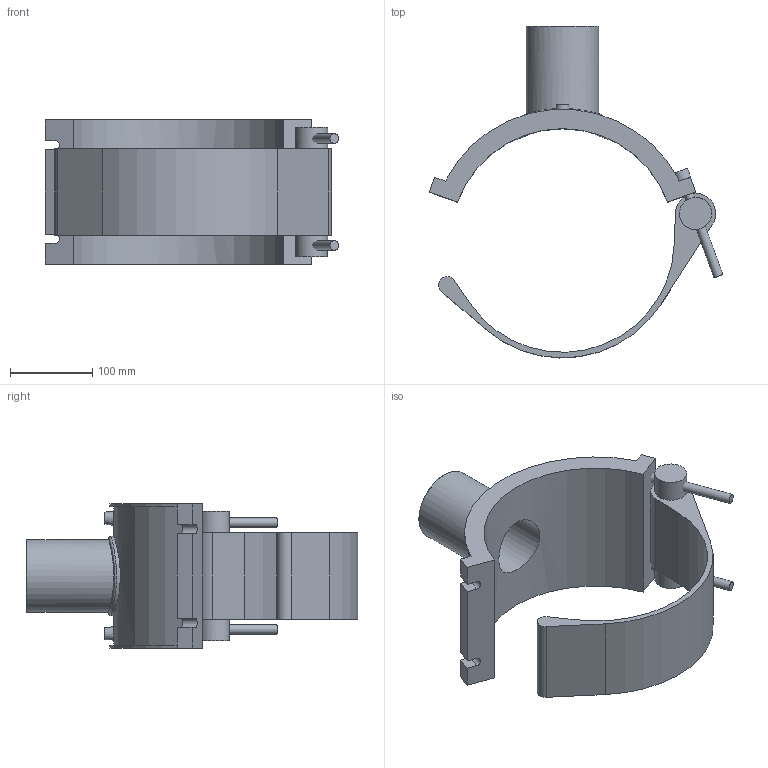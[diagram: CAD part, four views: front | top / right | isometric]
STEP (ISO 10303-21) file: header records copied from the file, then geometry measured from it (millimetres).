
FILE_DESCRIPTION(/* description */ ('PLASSON BRANCH SADDLE 10'''' x 3'''''),/* implementation_level */ '2;1');
FILE_NAME(/* name */ 'C:\Dropbox\KIMPROJECTS-Inventor 2019\99-16-3568-Processing Inch\ASTM ElectroFusion 2021\5958B-2\5958BB03100030.ipt.stp',/* time_stamp */ '2021-08-30T09:53:56+03:00',/* author */ ('KIM'),/* organization */ (''),/* preprocessor_version */ 'ST-DEVELOPER v17.2',/* originating_system */ 'Autodesk Inventor 2019',/* authorisation */ '');
FILE_SCHEMA (('AUTOMOTIVE_DESIGN { 1 0 10303 214 3 1 1 }'));
Length unit declared in the file: inch
Products named in the file (1): 5958BB03100030
Bounding box: 357.95 x 404.7 x 176.02 mm (x, y, z)
Volume: 2222495.5 mm3; surface area: 353856.6 mm2
Topology: 4 solids, 4 shells, 65 faces, 147 edges, 102 vertices
Faces by surface type: plane 37, cylinder 24, cone 3, bspline 1
Full cylindrical faces by diameter (mm): 4 x2, 10 x2, 11.453 x2, 19.089 x2, 39.269 x2, 70.96 x1, 88.7 x1, 97.57 x1
Entity records: 2290 total; most frequent: CARTESIAN_POINT 733, DIRECTION 322, ORIENTED_EDGE 294, EDGE_CURVE 147, AXIS2_PLACEMENT_3D 121, VERTEX_POINT 102, LINE 80, VECTOR 80
